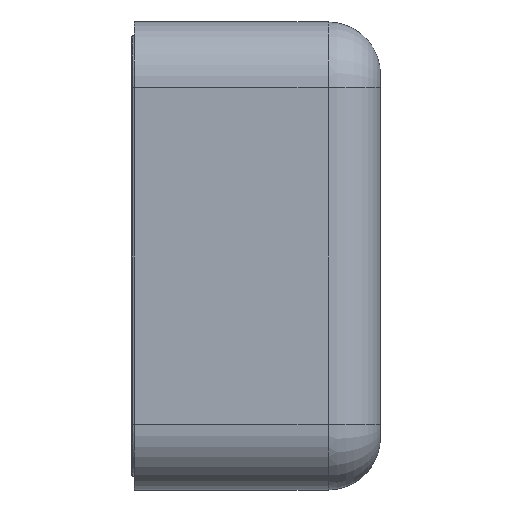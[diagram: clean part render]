
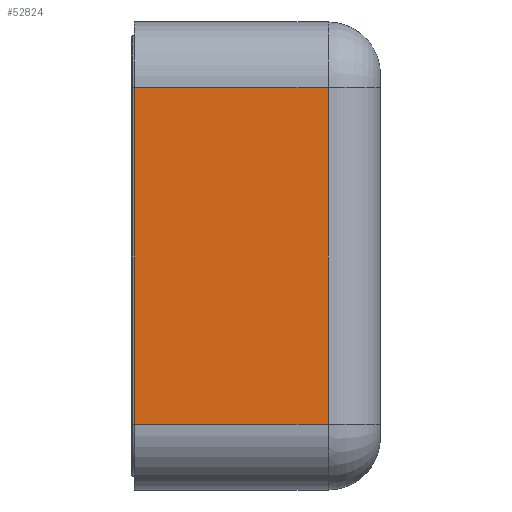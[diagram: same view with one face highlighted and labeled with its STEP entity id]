
A CAD part, left-side view. The second image highlights one B-rep face of the part: STEP entity #52824.
In plain terms, the highlighted planar face has unit normal (-1, 0, 0).
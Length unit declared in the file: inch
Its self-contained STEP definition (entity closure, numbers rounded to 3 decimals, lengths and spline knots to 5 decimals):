
#944 = LINE ( 'NONE', #48276, #49069 ) ;
#1633 = VERTEX_POINT ( 'NONE', #17086 ) ;
#2851 = PLANE ( 'NONE',  #20983 ) ;
#3615 = VECTOR ( 'NONE', #32307, 39.37008 ) ;
#3710 = FACE_OUTER_BOUND ( 'NONE', #44861, .T. ) ;
#5233 = CARTESIAN_POINT ( 'NONE',  ( -6.2725, 1.31609, -3.5813 ) ) ;
#6336 = ORIENTED_EDGE ( 'NONE', *, *, #41799, .T. ) ;
#10461 = CARTESIAN_POINT ( 'NONE',  ( -6.2725, 1.31609, 2.8587 ) ) ;
#12039 = VERTEX_POINT ( 'NONE', #34311 ) ;
#13178 = ORIENTED_EDGE ( 'NONE', *, *, #56254, .T. ) ;
#16327 = EDGE_CURVE ( 'NONE', #12039, #30529, #50773, .T. ) ;
#17086 = CARTESIAN_POINT ( 'NONE',  ( -6.2725, -2.39373, 2.8587 ) ) ;
#17740 = CARTESIAN_POINT ( 'NONE',  ( -6.2725, -2.39373, -3.5813 ) ) ;
#18219 = VECTOR ( 'NONE', #53853, 39.37008 ) ;
#18807 = DIRECTION ( 'NONE',  ( 0., 1., 0. ) ) ;
#20245 = DIRECTION ( 'NONE',  ( 0., 0., 1. ) ) ;
#20983 = AXIS2_PLACEMENT_3D ( 'NONE', #38180, #24735, #20245 ) ;
#22243 = VERTEX_POINT ( 'NONE', #10461 ) ;
#23107 = LINE ( 'NONE', #17740, #18219 ) ;
#23961 = ORIENTED_EDGE ( 'NONE', *, *, #53069, .F. ) ;
#24735 = DIRECTION ( 'NONE',  ( -1., 0., 0. ) ) ;
#27387 = LINE ( 'NONE', #28209, #3615 ) ;
#28209 = CARTESIAN_POINT ( 'NONE',  ( -6.2725, 1.21609, 2.8587 ) ) ;
#30529 = VERTEX_POINT ( 'NONE', #5233 ) ;
#31228 = VECTOR ( 'NONE', #18807, 39.37008 ) ;
#32088 = CARTESIAN_POINT ( 'NONE',  ( -6.2725, 1.21609, -3.5813 ) ) ;
#32307 = DIRECTION ( 'NONE',  ( 0., 1., 0. ) ) ;
#34311 = CARTESIAN_POINT ( 'NONE',  ( -6.2725, -2.39373, -3.5813 ) ) ;
#38180 = CARTESIAN_POINT ( 'NONE',  ( -6.2725, 1.21609, -3.5813 ) ) ;
#41799 = EDGE_CURVE ( 'NONE', #1633, #22243, #27387, .T. ) ;
#44861 = EDGE_LOOP ( 'NONE', ( #45378, #13178, #6336, #23961 ) ) ;
#45378 = ORIENTED_EDGE ( 'NONE', *, *, #16327, .F. ) ;
#48276 = CARTESIAN_POINT ( 'NONE',  ( -6.2725, 1.31609, -3.5813 ) ) ;
#49069 = VECTOR ( 'NONE', #57878, 39.37008 ) ;
#50773 = LINE ( 'NONE', #32088, #31228 ) ;
#52824 = ADVANCED_FACE ( 'NONE', ( #3710 ), #2851, .T. ) ;
#53069 = EDGE_CURVE ( 'NONE', #30529, #22243, #944, .T. ) ;
#53853 = DIRECTION ( 'NONE',  ( 0., 0., 1. ) ) ;
#56254 = EDGE_CURVE ( 'NONE', #12039, #1633, #23107, .T. ) ;
#57878 = DIRECTION ( 'NONE',  ( 0., 0., 1. ) ) ;
